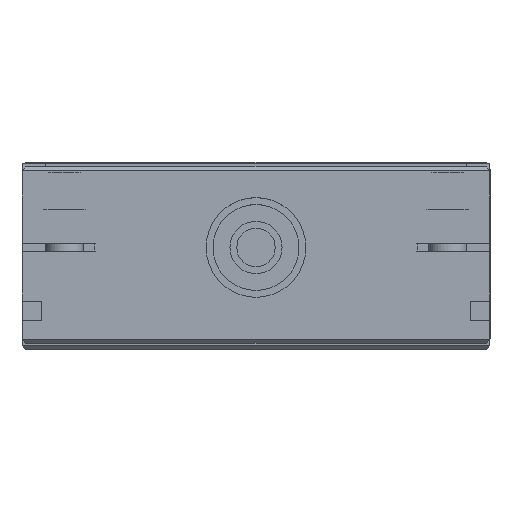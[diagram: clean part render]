
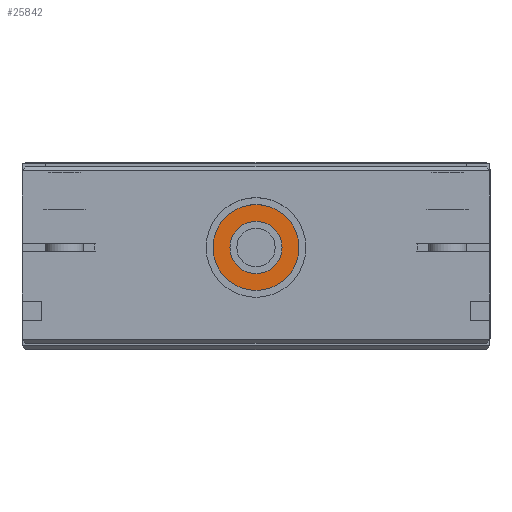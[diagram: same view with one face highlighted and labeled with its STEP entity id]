
A CAD part, top view. The second image highlights one B-rep face of the part: STEP entity #25842.
In plain terms, the highlighted planar face has unit normal (0, 0, 1) as drawn and (1, 0, 0) by its records, which use the part's own axes.
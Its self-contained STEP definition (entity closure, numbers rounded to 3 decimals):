
#360 = DIRECTION ( 'NONE',  ( 0., 0., 1. ) ) ;
#989 = ORIENTED_EDGE ( 'NONE', *, *, #36805, .F. ) ;
#3713 = EDGE_LOOP ( 'NONE', ( #12182, #989 ) ) ;
#9391 = PLANE ( 'NONE',  #18289 ) ;
#11786 = VERTEX_POINT ( 'NONE', #27740 ) ;
#12182 = ORIENTED_EDGE ( 'NONE', *, *, #22532, .F. ) ;
#13309 = CARTESIAN_POINT ( 'NONE',  ( 473., 25., 11.2 ) ) ;
#13593 = DIRECTION ( 'NONE',  ( -1., 0., 0. ) ) ;
#16043 = CARTESIAN_POINT ( 'NONE',  ( 473., 25., 0. ) ) ;
#17877 = VERTEX_POINT ( 'NONE', #31831 ) ;
#18101 = CARTESIAN_POINT ( 'NONE',  ( 473., 25., 0. ) ) ;
#18188 = DIRECTION ( 'NONE',  ( -1., 0., 0. ) ) ;
#18289 = AXIS2_PLACEMENT_3D ( 'NONE', #36773, #59348, #360 ) ;
#19211 = CIRCLE ( 'NONE', #24938, 11.2 ) ;
#20172 = CIRCLE ( 'NONE', #27880, 6.8 ) ;
#22532 = EDGE_CURVE ( 'NONE', #46075, #17877, #19211, .T. ) ;
#23605 = CARTESIAN_POINT ( 'NONE',  ( 473., 25., 0. ) ) ;
#24135 = EDGE_LOOP ( 'NONE', ( #54814, #29628 ) ) ;
#24938 = AXIS2_PLACEMENT_3D ( 'NONE', #18101, #13593, #50324 ) ;
#25142 = AXIS2_PLACEMENT_3D ( 'NONE', #42078, #37548, #55905 ) ;
#25322 = EDGE_CURVE ( 'NONE', #11786, #58320, #20172, .T. ) ;
#25842 = ADVANCED_FACE ( 'NONE', ( #28354, #27152 ), #9391, .F. ) ;
#27152 = FACE_BOUND ( 'NONE', #24135, .T. ) ;
#27740 = CARTESIAN_POINT ( 'NONE',  ( 473., 25., -6.8 ) ) ;
#27835 = EDGE_CURVE ( 'NONE', #58320, #11786, #35736, .T. ) ;
#27880 = AXIS2_PLACEMENT_3D ( 'NONE', #23605, #18188, #32331 ) ;
#28354 = FACE_OUTER_BOUND ( 'NONE', #3713, .T. ) ;
#29628 = ORIENTED_EDGE ( 'NONE', *, *, #25322, .T. ) ;
#31831 = CARTESIAN_POINT ( 'NONE',  ( 473., 25., -11.2 ) ) ;
#32022 = AXIS2_PLACEMENT_3D ( 'NONE', #16043, #56671, #47355 ) ;
#32331 = DIRECTION ( 'NONE',  ( 0., 0., 1. ) ) ;
#35736 = CIRCLE ( 'NONE', #25142, 6.8 ) ;
#36773 = CARTESIAN_POINT ( 'NONE',  ( 473., 31.8, 0. ) ) ;
#36805 = EDGE_CURVE ( 'NONE', #17877, #46075, #41665, .T. ) ;
#37548 = DIRECTION ( 'NONE',  ( -1., 0., 0. ) ) ;
#41665 = CIRCLE ( 'NONE', #32022, 11.2 ) ;
#42078 = CARTESIAN_POINT ( 'NONE',  ( 473., 25., 0. ) ) ;
#46075 = VERTEX_POINT ( 'NONE', #13309 ) ;
#47355 = DIRECTION ( 'NONE',  ( 0., 0., 1. ) ) ;
#50324 = DIRECTION ( 'NONE',  ( 0., 0., 1. ) ) ;
#51349 = CARTESIAN_POINT ( 'NONE',  ( 473., 25., 6.8 ) ) ;
#54814 = ORIENTED_EDGE ( 'NONE', *, *, #27835, .T. ) ;
#55905 = DIRECTION ( 'NONE',  ( 0., 0., 1. ) ) ;
#56671 = DIRECTION ( 'NONE',  ( -1., 0., 0. ) ) ;
#58320 = VERTEX_POINT ( 'NONE', #51349 ) ;
#59348 = DIRECTION ( 'NONE',  ( -1., 0., 0. ) ) ;
